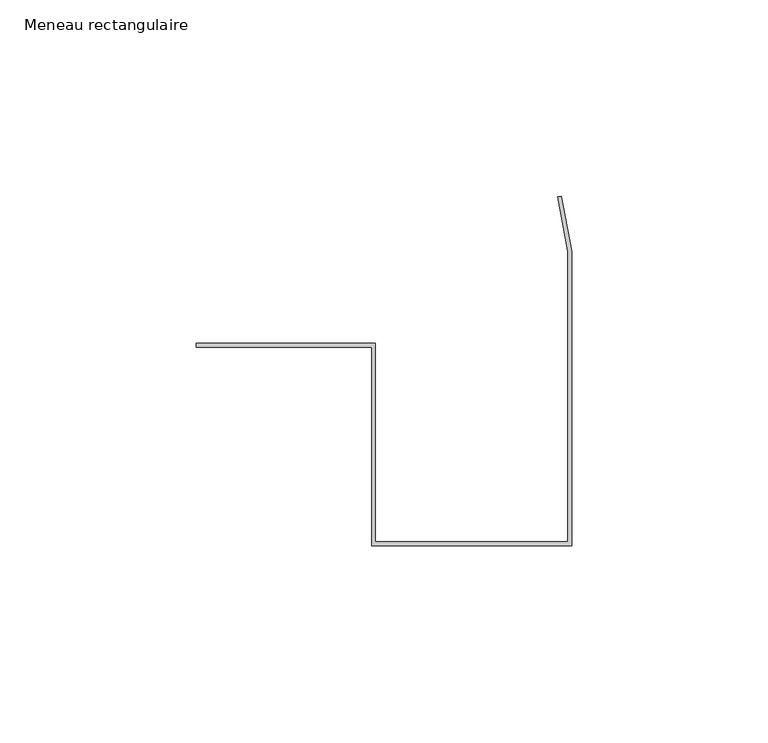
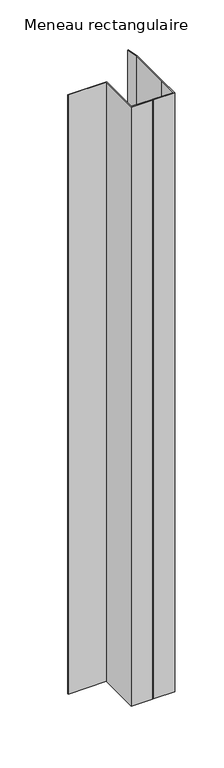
"""IFC4 building model written with IfcOpenShell, lengths in millimetres: member geometry, Meneau rectangulaire : Jonction contre mur Gauche H."""

from ifc_helpers import new_model, si_unit, frame, origin, place, context, project, spatial, polyline, outline, extrude, source, transform, mapped, element, save


def meneau_rectangulaire_b0ad7b53(model_context):
    return source(origin(), model_context, "Body", "SweptSolid", [
        extrude(outline(polyline([(-1.0, 26.3950161), (-3.6043568, 40.2612876), (-2.6384309, 40.4427073), (0.0, 26.3950161), (0.0, -23.6049839), (0.0, -48.6049839), (-25.0, -48.6049839), (-26.0, -48.6049839), (-51.0, -48.6049839), (-51.0, 2.0), (-95.6686418, 2.0), (-95.6686418, 3.0), (-50.0, 3.0), (-50.0, -47.6049839), (-26.0, -47.6049839), (-25.0, -47.6049839), (-1.0, -47.6049839), (-1.0, -23.6049839), (-1.0, 26.3950161)])), frame((0.0, 0.0, -743.1451617), z_axis=(0.0, 0.0, 1.0), x_axis=(1.0, 0.0, 0.0)), (0.0, 0.0, 1.0), 743.1451617),
    ])


if __name__ == "__main__":
    model = new_model("IFC4")
    model_context = context("Model", 3, world=origin())
    ifc_project = project(units=[si_unit("LENGTHUNIT", "METRE", prefix="MILLI")], contexts=[model_context])
    site = spatial("IfcSite", under=ifc_project)
    building = spatial("IfcBuilding", under=site)
    placement = place(None, origin())
    meneau_rectangulaire_shape = meneau_rectangulaire_b0ad7b53(model_context)
    element("IfcMember", 1, ObjectType="Meneau rectangulaire : Jonction contre mur Gauche H", at=placement, inside=building, context=model_context, shape_type="MappedRepresentation", body=[
        mapped(meneau_rectangulaire_shape, transform((0.0, 0.0, 0.0), x_axis=(1.0, 0.0, 0.0), y_axis=(0.0, 1.0, 0.0), z_axis=(0.0, 0.0, 1.0))),
    ])
    save(model, "model.ifc")
